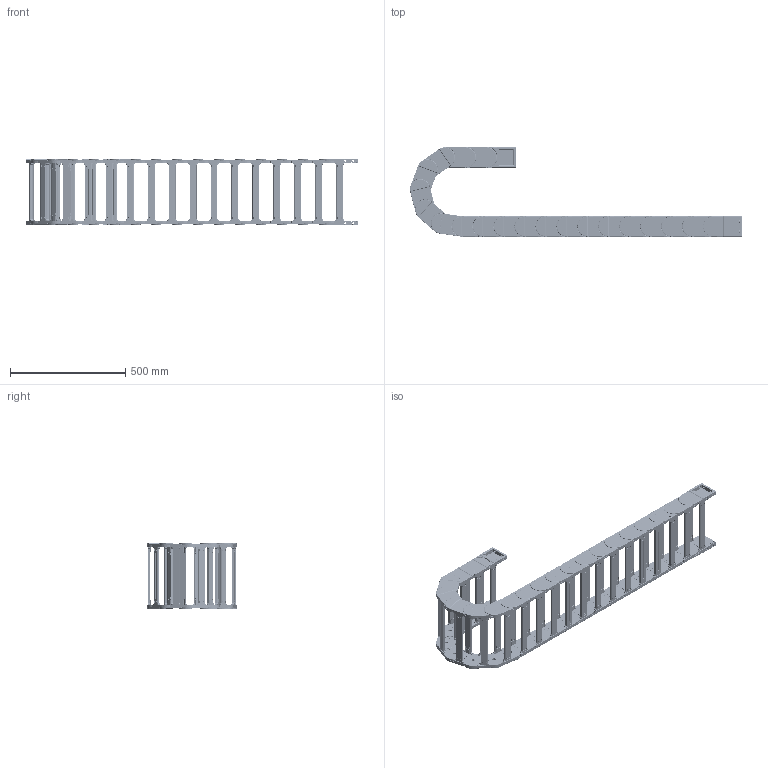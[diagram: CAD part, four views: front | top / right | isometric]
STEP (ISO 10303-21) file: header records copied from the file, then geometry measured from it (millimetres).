
FILE_DESCRIPTION (( 'STEP AP214' ), '1' );
FILE_NAME ('J60Q.1.250S-3D賦凳芞.STEP', '2019-01-10T01:14:56', ( 'Sky123.Org' ), ( 'Sky123.Org' ), 'SwSTEP 2.0', 'SolidWorks 2017', '' );
FILE_SCHEMA (( 'AUTOMOTIVE_DESIGN' ));
Length unit declared in the file: millimetre
Products named in the file (10): J60Q.1-源諉芛-W; J60Q.1.100S-桥式-内接头; 臏簽12X9; J60Q.1-源諉芛-N; J60Q.1.100S-桥式-单节主体; J60-H80-100結え; J60Q.1-翋极-R-2018.3.30; J60Q.1-翋极-L-2018.3.30; J60Q.1.250S-3D賦凳芞; J60Q.1.100S-桥式-外接头
Assembly tree (57 placements, depth 3):
  J60Q.1.250S-3D賦凳芞
    J60Q.1.100S-桥式-单节主体  x19
      J60Q.1-翋极-L-2018.3.30
      J60Q.1-翋极-R-2018.3.30
      J60-H80-100結え
    J60Q.1.100S-桥式-内接头
      J60Q.1-源諉芛-N  x2
      J60-H80-100結え  x2
      臏簽12X9  x12
    J60Q.1.100S-桥式-外接头
      J60Q.1-源諉芛-W  x2
      J60-H80-100結え  x2
      臏簽12X9  x12
Bounding box: 1442.11 x 388.53 x 290 mm (x, y, z)
Volume: 8640710.1 mm3; surface area: 2736024.1 mm2
Topology: 108 solids, 148 shells, 19975 faces, 52506 edges, 33104 vertices
Faces by surface type: plane 9891, cylinder 6288, bspline 1518, torus 1288, sphere 778, cone 212
Entity records: 36164 total; most frequent: CARTESIAN_POINT 8515, ORIENTED_EDGE 4950, DIRECTION 4876, EDGE_CURVE 2475, AXIS2_PLACEMENT_3D 1648, VERTEX_POINT 1583, LINE 1580, VECTOR 1580
